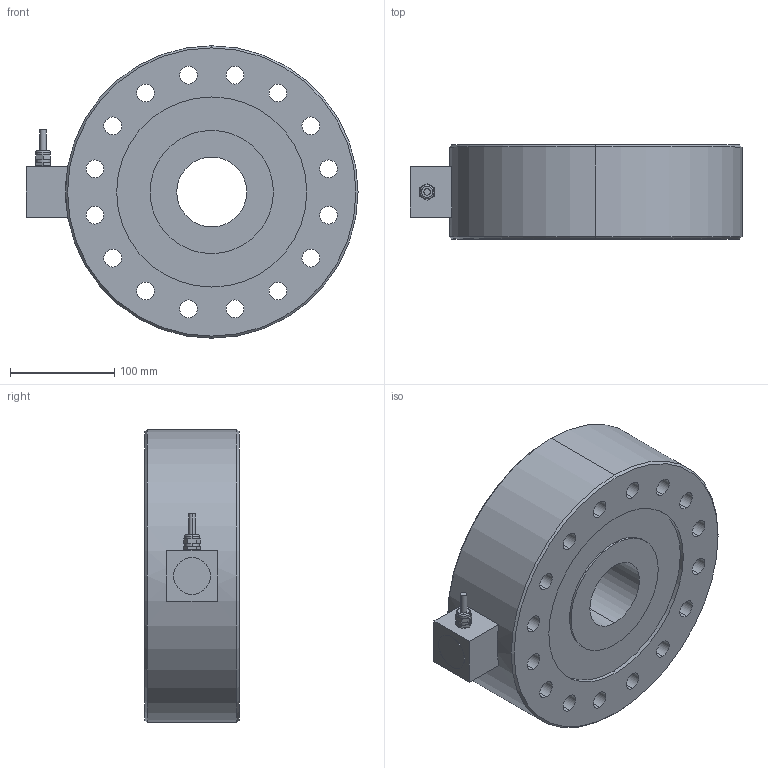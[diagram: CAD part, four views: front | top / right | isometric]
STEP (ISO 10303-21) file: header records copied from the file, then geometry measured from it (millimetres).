
FILE_DESCRIPTION (( 'STEP AP203' ), '1' );
FILE_NAME ('363YS-100t-YZ 3D耀倰.STEP', '2026-06-18T00:39:54', ( '' ), ( '' ), 'SwSTEP 2.0', 'SolidWorks 2024', '' );
FILE_SCHEMA (( 'CONFIG_CONTROL_DESIGN' ));
Length unit declared in the file: millimetre
Products named in the file (1): 363YS-100t-YZ  3D模型
Bounding box: 317.8 x 90 x 280 mm (x, y, z)
Volume: 4835083.7 mm3; surface area: 295672.5 mm2
Topology: 1 solids, 1 shells, 90 faces, 222 edges, 146 vertices
Faces by surface type: cylinder 54, plane 30, cone 4, torus 2
Entity records: 2861 total; most frequent: DIRECTION 522, CARTESIAN_POINT 459, ORIENTED_EDGE 444, EDGE_CURVE 222, AXIS2_PLACEMENT_3D 209, VERTEX_POINT 146, EDGE_LOOP 136, CIRCLE 118
